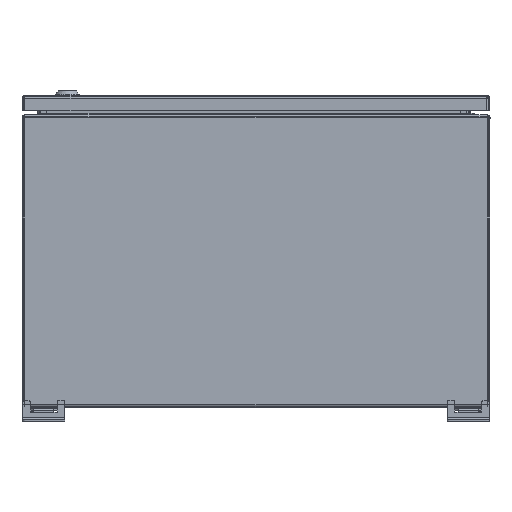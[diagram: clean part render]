
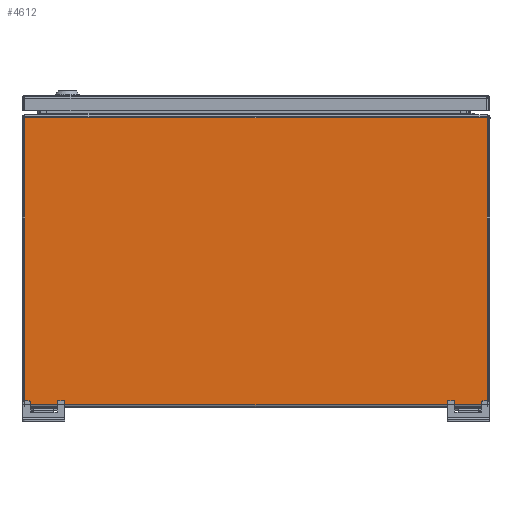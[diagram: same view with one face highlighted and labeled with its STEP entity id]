
A CAD part, front view. The second image highlights one B-rep face of the part: STEP entity #4612.
In plain terms, the highlighted planar face has unit normal (0, -1, 0) as drawn and (0, 0, 1) by its records, which use the part's own axes.
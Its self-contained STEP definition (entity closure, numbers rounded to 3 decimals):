
#4612=ADVANCED_FACE('',(#11490),#11492,.T.);
#11490=FACE_BOUND('',#11491,.T.);
#11491=EDGE_LOOP('',(#37021,#37022,#37023,#37024));
#11492=PLANE('',#11493);
#11493=AXIS2_PLACEMENT_3D('',#11494,#11495,#11496);
#11494=CARTESIAN_POINT('',(0.,0.,1.5));
#11495=DIRECTION('',(0.,0.,1.));
#11496=DIRECTION('',(1.,0.,0.));
#37021=ORIENTED_EDGE('',*,*,#42162,.T.);
#37022=ORIENTED_EDGE('',*,*,#42159,.T.);
#37023=ORIENTED_EDGE('',*,*,#42115,.T.);
#37024=ORIENTED_EDGE('',*,*,#42165,.T.);
#42115=EDGE_CURVE('',#45283,#45281,#45284,.T.);
#42159=EDGE_CURVE('',#45349,#45283,#45350,.T.);
#42162=EDGE_CURVE('',#45353,#45349,#45354,.T.);
#42165=EDGE_CURVE('',#45281,#45353,#45357,.T.);
#45281=VERTEX_POINT('',#51858);
#45283=VERTEX_POINT('',#51863);
#45284=LINE('',#51864,#51865);
#45349=VERTEX_POINT('',#52030);
#45350=LINE('',#52031,#52032);
#45353=VERTEX_POINT('',#52042);
#45354=LINE('',#52043,#52044);
#45357=LINE('',#52054,#52055);
#51858=CARTESIAN_POINT('',(61.7,1101.319,1.5));
#51863=CARTESIAN_POINT('',(61.7,1694.319,1.5));
#51864=CARTESIAN_POINT('',(61.7,1694.319,1.5));
#51865=VECTOR('',#51866,1.);
#51866=DIRECTION('',(0.,-1.,0.));
#52030=CARTESIAN_POINT('',(429.45,1694.319,1.5));
#52031=CARTESIAN_POINT('',(429.45,1694.319,1.5));
#52032=VECTOR('',#52033,1.);
#52033=DIRECTION('',(-1.,0.,0.));
#52042=CARTESIAN_POINT('',(429.45,1101.319,1.5));
#52043=CARTESIAN_POINT('',(429.45,1101.319,1.5));
#52044=VECTOR('',#52045,1.);
#52045=DIRECTION('',(0.,1.,0.));
#52054=CARTESIAN_POINT('',(61.7,1101.319,1.5));
#52055=VECTOR('',#52056,1.);
#52056=DIRECTION('',(1.,0.,0.));
